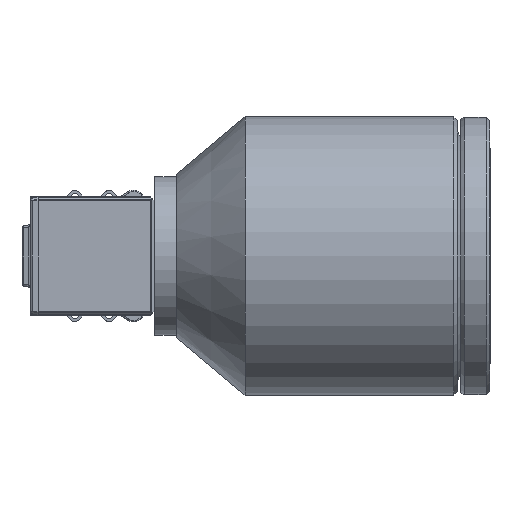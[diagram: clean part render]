
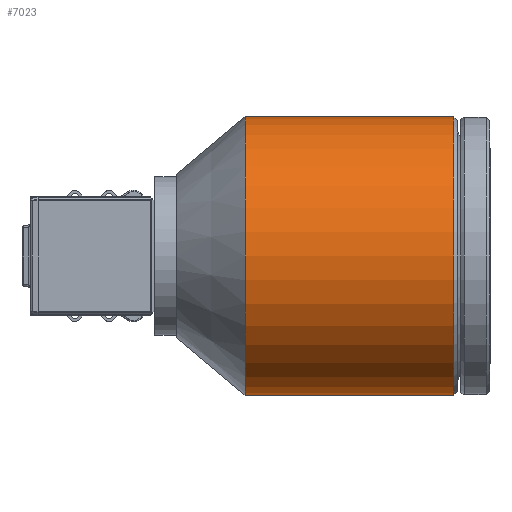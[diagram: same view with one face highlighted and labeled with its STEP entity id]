
A CAD part, left-side view. The second image highlights one B-rep face of the part: STEP entity #7023.
In plain terms, the highlighted cylindrical face has radius 19 mm (diameter 38 mm), a partial arc.
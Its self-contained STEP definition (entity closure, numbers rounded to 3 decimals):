
#2283 = EDGE_LOOP ( 'NONE', ( #44496, #6949, #29408, #34020 ) ) ;
#2931 = DIRECTION ( 'NONE',  ( 0., -1., 0. ) ) ;
#3353 = DIRECTION ( 'NONE',  ( 0., 0., -1. ) ) ;
#3394 = LINE ( 'NONE', #25228, #52496 ) ;
#3744 = VERTEX_POINT ( 'NONE', #34948 ) ;
#6133 = CYLINDRICAL_SURFACE ( 'NONE', #13206, 19. ) ;
#6949 = ORIENTED_EDGE ( 'NONE', *, *, #25882, .T. ) ;
#7023 = ADVANCED_FACE ( 'NONE', ( #43723 ), #6133, .T. ) ;
#9937 = CARTESIAN_POINT ( 'NONE',  ( 88.502, 5.483, 0. ) ) ;
#13206 = AXIS2_PLACEMENT_3D ( 'NONE', #25585, #25386, #60490 ) ;
#13884 = CARTESIAN_POINT ( 'NONE',  ( 88.502, 5.483, -19. ) ) ;
#21647 = CARTESIAN_POINT ( 'NONE',  ( 88.502, -23.023, -19. ) ) ;
#22881 = EDGE_CURVE ( 'NONE', #46295, #36582, #3394, .T. ) ;
#25228 = CARTESIAN_POINT ( 'NONE',  ( 88.502, -27.963, -19. ) ) ;
#25386 = DIRECTION ( 'NONE',  ( 0., -1., 0. ) ) ;
#25585 = CARTESIAN_POINT ( 'NONE',  ( 88.502, -27.963, 0. ) ) ;
#25882 = EDGE_CURVE ( 'NONE', #53423, #46295, #58179, .T. ) ;
#28342 = VECTOR ( 'NONE', #30136, 1000. ) ;
#29408 = ORIENTED_EDGE ( 'NONE', *, *, #22881, .T. ) ;
#30136 = DIRECTION ( 'NONE',  ( 0., -1., 0. ) ) ;
#30258 = AXIS2_PLACEMENT_3D ( 'NONE', #47739, #2931, #3353 ) ;
#34020 = ORIENTED_EDGE ( 'NONE', *, *, #55496, .F. ) ;
#34580 = DIRECTION ( 'NONE',  ( 0., 0., -1. ) ) ;
#34948 = CARTESIAN_POINT ( 'NONE',  ( 88.502, -23.023, 19. ) ) ;
#36582 = VERTEX_POINT ( 'NONE', #21647 ) ;
#40630 = LINE ( 'NONE', #59498, #28342 ) ;
#43723 = FACE_OUTER_BOUND ( 'NONE', #2283, .T. ) ;
#44496 = ORIENTED_EDGE ( 'NONE', *, *, #60141, .F. ) ;
#45093 = CIRCLE ( 'NONE', #30258, 19. ) ;
#46295 = VERTEX_POINT ( 'NONE', #13884 ) ;
#47739 = CARTESIAN_POINT ( 'NONE',  ( 88.502, -23.023, 0. ) ) ;
#52496 = VECTOR ( 'NONE', #55666, 1000. ) ;
#53423 = VERTEX_POINT ( 'NONE', #55049 ) ;
#55049 = CARTESIAN_POINT ( 'NONE',  ( 88.502, 5.483, 19. ) ) ;
#55496 = EDGE_CURVE ( 'NONE', #3744, #36582, #45093, .T. ) ;
#55666 = DIRECTION ( 'NONE',  ( 0., -1., 0. ) ) ;
#58179 = CIRCLE ( 'NONE', #62275, 19. ) ;
#59498 = CARTESIAN_POINT ( 'NONE',  ( 88.502, -27.963, 19. ) ) ;
#60141 = EDGE_CURVE ( 'NONE', #53423, #3744, #40630, .T. ) ;
#60490 = DIRECTION ( 'NONE',  ( 0., 0., -1. ) ) ;
#62275 = AXIS2_PLACEMENT_3D ( 'NONE', #9937, #63267, #34580 ) ;
#63267 = DIRECTION ( 'NONE',  ( 0., -1., 0. ) ) ;
